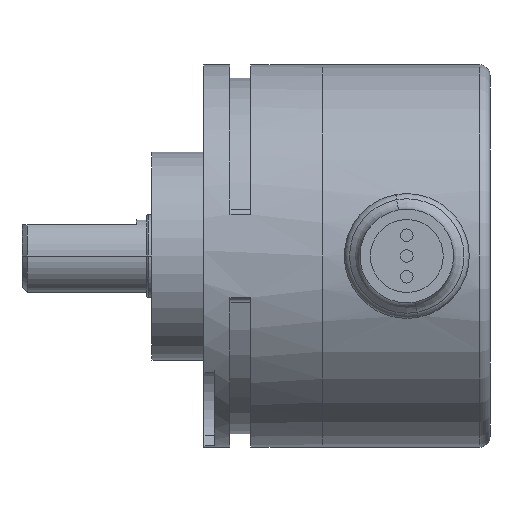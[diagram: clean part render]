
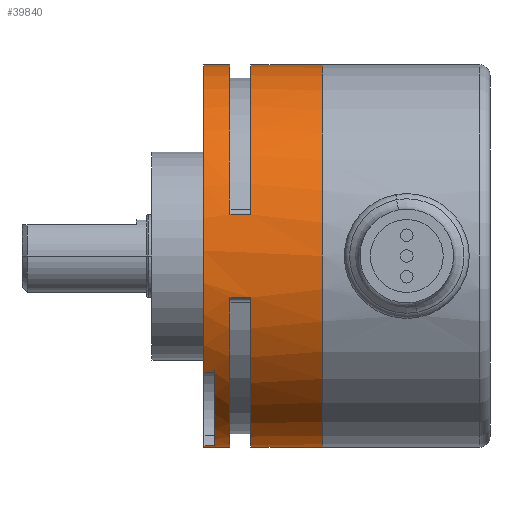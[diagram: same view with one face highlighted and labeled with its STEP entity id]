
A CAD part, front view. The second image highlights one B-rep face of the part: STEP entity #39840.
In plain terms, the highlighted cylindrical face has radius 18.4 mm (diameter 36.8 mm), a partial arc.
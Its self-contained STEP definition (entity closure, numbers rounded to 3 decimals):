
#16704 = DIRECTION ( 'NONE',  ( -1., 0., 0. ) ) ;
#16705 = VECTOR ( 'NONE', #16704, 1000. ) ;
#16706 = CARTESIAN_POINT ( 'NONE',  ( -52.111, 5.115, 18.4 ) ) ;
#16707 = LINE ( 'NONE', #16706, #16705 ) ;
#17048 = CARTESIAN_POINT ( 'NONE',  ( -44.611, 5.115, 18.4 ) ) ;
#17049 = DIRECTION ( 'NONE',  ( -1., 0., 0. ) ) ;
#17075 = VECTOR ( 'NONE', #17049, 1000. ) ;
#17076 = CARTESIAN_POINT ( 'NONE',  ( -52.111, 5.115, 18.4 ) ) ;
#17077 = LINE ( 'NONE', #17076, #17075 ) ;
#17112 = CARTESIAN_POINT ( 'NONE',  ( -47.111, 5.115, 18.4 ) ) ;
#17882 = CARTESIAN_POINT ( 'NONE',  ( -42.611, 5.115, 18.4 ) ) ;
#18123 = CARTESIAN_POINT ( 'NONE',  ( -47.111, 5.115, -18.4 ) ) ;
#18156 = DIRECTION ( 'NONE',  ( -1., 0., 0. ) ) ;
#18158 = VECTOR ( 'NONE', #18156, 1000. ) ;
#18159 = CARTESIAN_POINT ( 'NONE',  ( -52.111, 5.115, -18.4 ) ) ;
#18160 = LINE ( 'NONE', #18159, #18158 ) ;
#19884 = CARTESIAN_POINT ( 'NONE',  ( -46.111, 2.669, -18.237 ) ) ;
#19885 = DIRECTION ( 'NONE',  ( -1., 0., 0. ) ) ;
#19886 = VECTOR ( 'NONE', #19885, 1000. ) ;
#19888 = CARTESIAN_POINT ( 'NONE',  ( -46.111, -9.456, -11.237 ) ) ;
#19889 = LINE ( 'NONE', #19888, #19886 ) ;
#19898 = DIRECTION ( 'NONE',  ( 0., 0., -1. ) ) ;
#19900 = DIRECTION ( 'NONE',  ( 1., 0., 0. ) ) ;
#19902 = CARTESIAN_POINT ( 'NONE',  ( -44.611, 5.115, 0. ) ) ;
#19903 = AXIS2_PLACEMENT_3D ( 'NONE', #19902, #19900, #19898 ) ;
#19904 = CIRCLE ( 'NONE', #19903, 18.4 ) ;
#19909 = DIRECTION ( 'NONE',  ( -1., 0., 0. ) ) ;
#19910 = VECTOR ( 'NONE', #19909, 1000. ) ;
#19912 = CARTESIAN_POINT ( 'NONE',  ( -42.611, -12.845, 4. ) ) ;
#19913 = LINE ( 'NONE', #19912, #19910 ) ;
#19916 = CARTESIAN_POINT ( 'NONE',  ( -46.111, 5.115, 0. ) ) ;
#19917 = AXIS2_PLACEMENT_3D ( 'NONE', #19916, #19985, #19984 ) ;
#19918 = CIRCLE ( 'NONE', #19917, 18.4 ) ;
#19925 = CARTESIAN_POINT ( 'NONE',  ( -46.111, -9.456, -11.237 ) ) ;
#19937 = CARTESIAN_POINT ( 'NONE',  ( -44.611, -12.845, 4. ) ) ;
#19948 = DIRECTION ( 'NONE',  ( 0., 0., -1. ) ) ;
#19950 = DIRECTION ( 'NONE',  ( 1., 0., 0. ) ) ;
#19951 = CARTESIAN_POINT ( 'NONE',  ( -42.611, 5.115, 0. ) ) ;
#19952 = AXIS2_PLACEMENT_3D ( 'NONE', #19951, #19950, #19948 ) ;
#19954 = CIRCLE ( 'NONE', #19952, 18.4 ) ;
#19969 = CARTESIAN_POINT ( 'NONE',  ( -42.611, -12.845, -4. ) ) ;
#19984 = DIRECTION ( 'NONE',  ( 0., 0., 1. ) ) ;
#19985 = DIRECTION ( 'NONE',  ( -1., 0., 0. ) ) ;
#19996 = DIRECTION ( 'NONE',  ( 0., 0., 1. ) ) ;
#19997 = DIRECTION ( 'NONE',  ( -1., 0., 0. ) ) ;
#19998 = CARTESIAN_POINT ( 'NONE',  ( -35.711, 5.115, 0. ) ) ;
#19999 = AXIS2_PLACEMENT_3D ( 'NONE', #19998, #19997, #19996 ) ;
#20000 = CIRCLE ( 'NONE', #19999, 18.4 ) ;
#26897 = CARTESIAN_POINT ( 'NONE',  ( -44.611, 5.115, -18.4 ) ) ;
#35974 = VERTEX_POINT ( 'NONE', #42699 ) ;
#35975 = VERTEX_POINT ( 'NONE', #42779 ) ;
#36184 = VERTEX_POINT ( 'NONE', #56694 ) ;
#36192 = EDGE_CURVE ( 'NONE', #35975, #36184, #56679, .T. ) ;
#36399 = VERTEX_POINT ( 'NONE', #26897 ) ;
#36768 = EDGE_CURVE ( 'NONE', #35974, #36939, #16707, .T. ) ;
#36773 = VERTEX_POINT ( 'NONE', #17112 ) ;
#36777 = EDGE_CURVE ( 'NONE', #36778, #36773, #17077, .T. ) ;
#36778 = VERTEX_POINT ( 'NONE', #17048 ) ;
#36939 = VERTEX_POINT ( 'NONE', #17882 ) ;
#36945 = VERTEX_POINT ( 'NONE', #18123 ) ;
#36969 = EDGE_CURVE ( 'NONE', #36399, #36945, #18160, .T. ) ;
#39614 = VERTEX_POINT ( 'NONE', #44817 ) ;
#39713 = EDGE_CURVE ( 'NONE', #39614, #36773, #45443, .T. ) ;
#39719 = EDGE_CURVE ( 'NONE', #36945, #39720, #45529, .T. ) ;
#39720 = VERTEX_POINT ( 'NONE', #45522 ) ;
#39821 = VERTEX_POINT ( 'NONE', #49559 ) ;
#39832 = ORIENTED_EDGE ( 'NONE', *, *, #39833, .T. ) ;
#39833 = EDGE_CURVE ( 'NONE', #39959, #39720, #49577, .T. ) ;
#39837 = VERTEX_POINT ( 'NONE', #49572 ) ;
#39840 = ADVANCED_FACE ( 'NONE', ( #49565 ), #49596, .T. ) ;
#39842 = ORIENTED_EDGE ( 'NONE', *, *, #36192, .F. ) ;
#39848 = EDGE_CURVE ( 'NONE', #39821, #36399, #49597, .T. ) ;
#39859 = ORIENTED_EDGE ( 'NONE', *, *, #36969, .F. ) ;
#39877 = ORIENTED_EDGE ( 'NONE', *, *, #39879, .F. ) ;
#39879 = EDGE_CURVE ( 'NONE', #39984, #39821, #49664, .T. ) ;
#39893 = EDGE_CURVE ( 'NONE', #39984, #36184, #49648, .T. ) ;
#39902 = ORIENTED_EDGE ( 'NONE', *, *, #39893, .T. ) ;
#39905 = ORIENTED_EDGE ( 'NONE', *, *, #36777, .T. ) ;
#39951 = EDGE_CURVE ( 'NONE', #39837, #39970, #19913, .T. ) ;
#39953 = ORIENTED_EDGE ( 'NONE', *, *, #39954, .F. ) ;
#39954 = EDGE_CURVE ( 'NONE', #36778, #39970, #19904, .T. ) ;
#39957 = EDGE_CURVE ( 'NONE', #39974, #39614, #19889, .T. ) ;
#39958 = ORIENTED_EDGE ( 'NONE', *, *, #39978, .F. ) ;
#39959 = VERTEX_POINT ( 'NONE', #19884 ) ;
#39960 = ORIENTED_EDGE ( 'NONE', *, *, #39951, .T. ) ;
#39970 = VERTEX_POINT ( 'NONE', #19937 ) ;
#39972 = ORIENTED_EDGE ( 'NONE', *, *, #39713, .F. ) ;
#39973 = ORIENTED_EDGE ( 'NONE', *, *, #39957, .F. ) ;
#39974 = VERTEX_POINT ( 'NONE', #19925 ) ;
#39978 = EDGE_CURVE ( 'NONE', #39959, #39974, #19918, .T. ) ;
#39984 = VERTEX_POINT ( 'NONE', #19969 ) ;
#39986 = ORIENTED_EDGE ( 'NONE', *, *, #40001, .T. ) ;
#39990 = ORIENTED_EDGE ( 'NONE', *, *, #39991, .T. ) ;
#39991 = EDGE_CURVE ( 'NONE', #36939, #39837, #19954, .T. ) ;
#39994 = EDGE_LOOP ( 'NONE', ( #39842, #39986, #40002, #39990, #39960, #39953, #39905, #39972, #39973, #39958, #39832, #40013, #39859, #40092, #39877, #39902 ) ) ;
#40001 = EDGE_CURVE ( 'NONE', #35975, #35974, #20000, .T. ) ;
#40002 = ORIENTED_EDGE ( 'NONE', *, *, #36768, .T. ) ;
#40013 = ORIENTED_EDGE ( 'NONE', *, *, #39719, .F. ) ;
#40092 = ORIENTED_EDGE ( 'NONE', *, *, #39848, .F. ) ;
#42699 = CARTESIAN_POINT ( 'NONE',  ( -35.711, 5.115, 18.4 ) ) ;
#42779 = CARTESIAN_POINT ( 'NONE',  ( -35.711, 5.115, -18.4 ) ) ;
#44817 = CARTESIAN_POINT ( 'NONE',  ( -47.111, -9.456, -11.237 ) ) ;
#45439 = DIRECTION ( 'NONE',  ( 0., 0., 1. ) ) ;
#45440 = DIRECTION ( 'NONE',  ( -1., 0., 0. ) ) ;
#45441 = CARTESIAN_POINT ( 'NONE',  ( -47.111, 5.115, 0. ) ) ;
#45442 = AXIS2_PLACEMENT_3D ( 'NONE', #45441, #45440, #45439 ) ;
#45443 = CIRCLE ( 'NONE', #45442, 18.4 ) ;
#45522 = CARTESIAN_POINT ( 'NONE',  ( -47.111, 2.669, -18.237 ) ) ;
#45523 = DIRECTION ( 'NONE',  ( 0., 0., 1. ) ) ;
#45525 = DIRECTION ( 'NONE',  ( -1., 0., 0. ) ) ;
#45526 = CARTESIAN_POINT ( 'NONE',  ( -47.111, 5.115, 0. ) ) ;
#45528 = AXIS2_PLACEMENT_3D ( 'NONE', #45526, #45525, #45523 ) ;
#45529 = CIRCLE ( 'NONE', #45528, 18.4 ) ;
#49559 = CARTESIAN_POINT ( 'NONE',  ( -44.611, -12.845, -4. ) ) ;
#49565 = FACE_OUTER_BOUND ( 'NONE', #39994, .T. ) ;
#49572 = CARTESIAN_POINT ( 'NONE',  ( -42.611, -12.845, 4. ) ) ;
#49574 = DIRECTION ( 'NONE',  ( -1., 0., 0. ) ) ;
#49575 = VECTOR ( 'NONE', #49574, 1000. ) ;
#49576 = CARTESIAN_POINT ( 'NONE',  ( -46.111, 2.669, -18.237 ) ) ;
#49577 = LINE ( 'NONE', #49576, #49575 ) ;
#49588 = DIRECTION ( 'NONE',  ( 0., 0., -1. ) ) ;
#49589 = DIRECTION ( 'NONE',  ( 1., 0., 0. ) ) ;
#49590 = CARTESIAN_POINT ( 'NONE',  ( -44.611, 5.115, 0. ) ) ;
#49591 = AXIS2_PLACEMENT_3D ( 'NONE', #49590, #49589, #49588 ) ;
#49592 = DIRECTION ( 'NONE',  ( 0., 0., 1. ) ) ;
#49594 = DIRECTION ( 'NONE',  ( -1., 0., 0. ) ) ;
#49595 = AXIS2_PLACEMENT_3D ( 'NONE', #49598, #49594, #49592 ) ;
#49596 = CYLINDRICAL_SURFACE ( 'NONE', #49595, 18.4 ) ;
#49597 = CIRCLE ( 'NONE', #49591, 18.4 ) ;
#49598 = CARTESIAN_POINT ( 'NONE',  ( -52.111, 5.115, 0. ) ) ;
#49644 = DIRECTION ( 'NONE',  ( 0., 0., -1. ) ) ;
#49645 = DIRECTION ( 'NONE',  ( 1., 0., 0. ) ) ;
#49646 = CARTESIAN_POINT ( 'NONE',  ( -42.611, 5.115, 0. ) ) ;
#49647 = AXIS2_PLACEMENT_3D ( 'NONE', #49646, #49645, #49644 ) ;
#49648 = CIRCLE ( 'NONE', #49647, 18.4 ) ;
#49661 = DIRECTION ( 'NONE',  ( -1., 0., 0. ) ) ;
#49662 = VECTOR ( 'NONE', #49661, 1000. ) ;
#49663 = CARTESIAN_POINT ( 'NONE',  ( -42.611, -12.845, -4. ) ) ;
#49664 = LINE ( 'NONE', #49663, #49662 ) ;
#56670 = VECTOR ( 'NONE', #56697, 1000. ) ;
#56679 = LINE ( 'NONE', #56698, #56670 ) ;
#56694 = CARTESIAN_POINT ( 'NONE',  ( -42.611, 5.115, -18.4 ) ) ;
#56697 = DIRECTION ( 'NONE',  ( -1., 0., 0. ) ) ;
#56698 = CARTESIAN_POINT ( 'NONE',  ( -52.111, 5.115, -18.4 ) ) ;
